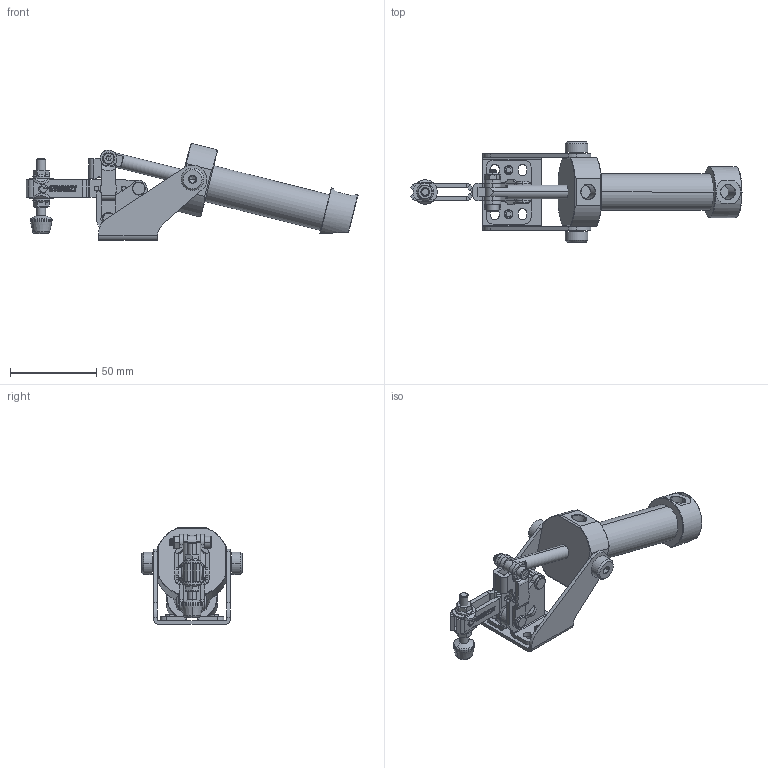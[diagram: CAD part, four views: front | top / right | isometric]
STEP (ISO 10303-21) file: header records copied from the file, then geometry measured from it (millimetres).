
FILE_DESCRIPTION(('STEP AP242'),'1');
FILE_NAME('611-1-q20.stp','2023-11-30T13:17:24',('TraceParts'),('TraceParts S.A.'),'Spatial InterOp 3D',' ',' ');
FILE_SCHEMA(('AP242_MANAGED_MODEL_BASED_3D_ENGINEERING_MIM_LF {1 0 10303 442 1 1 4}'));
Length unit declared in the file: millimetre
Products named in the file (1): 611-1-q20_1
Bounding box: 191.94 x 58 x 55.99 mm (x, y, z)
Volume: 70216.2 mm3; surface area: 45485.4 mm2
Topology: 10 solids, 15 shells, 1538 faces, 3805 edges, 2325 vertices
Faces by surface type: cylinder 710, plane 462, torus 209, cone 95, bspline 39, sphere 23
Entity records: 81777 total; most frequent: CARTESIAN_POINT 40881, DIRECTION 8220, ORIENTED_EDGE 7544, EDGE_CURVE 3772, AXIS2_PLACEMENT_3D 3280, VERTEX_POINT 2325, CIRCLE 1707, LINE 1660
